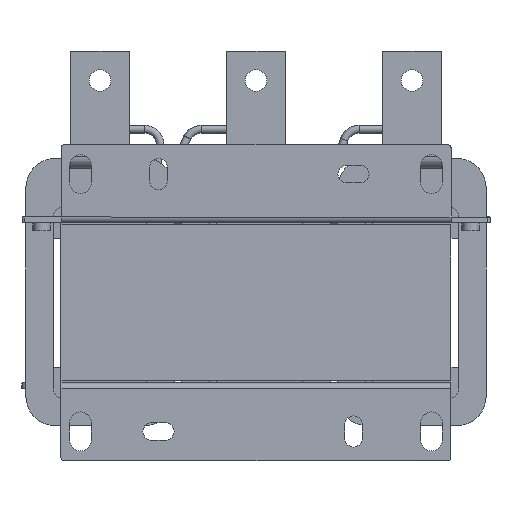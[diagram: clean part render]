
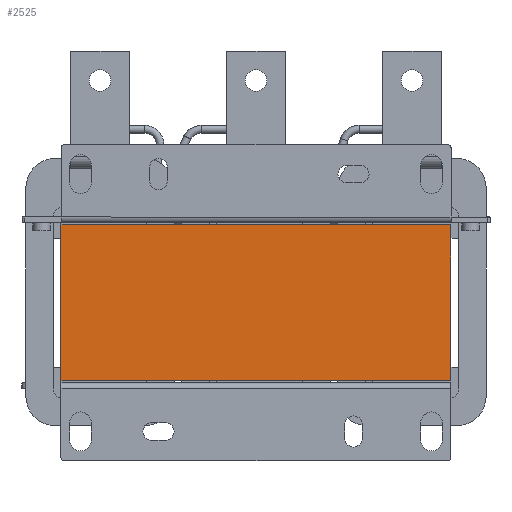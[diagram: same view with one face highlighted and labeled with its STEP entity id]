
A CAD part, front view. The second image highlights one B-rep face of the part: STEP entity #2525.
In plain terms, the highlighted planar face has unit normal (0, -1, 0).
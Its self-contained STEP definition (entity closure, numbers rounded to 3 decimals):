
#2525=ADVANCED_FACE('',(#8424),#8426,.F.);
#8424=FACE_BOUND('',#8425,.T.);
#8425=EDGE_LOOP('',(#16468,#16469,#16470,#16471));
#8426=PLANE('',#8427);
#8427=AXIS2_PLACEMENT_3D('',#8428,#8429,#8430);
#8428=CARTESIAN_POINT('',(-100.,-106.,80.));
#8429=DIRECTION('',(0.,1.,0.));
#8430=DIRECTION('',(-1.,0.,0.));
#16468=ORIENTED_EDGE('',*,*,#19485,.T.);
#16469=ORIENTED_EDGE('',*,*,#19497,.F.);
#16470=ORIENTED_EDGE('',*,*,#19475,.F.);
#16471=ORIENTED_EDGE('',*,*,#19499,.T.);
#19475=EDGE_CURVE('',#21015,#21010,#21017,.T.);
#19485=EDGE_CURVE('',#21037,#21034,#21038,.T.);
#19497=EDGE_CURVE('',#21010,#21034,#21059,.T.);
#19499=EDGE_CURVE('',#21015,#21037,#21061,.T.);
#21010=VERTEX_POINT('',#23633);
#21015=VERTEX_POINT('',#23642);
#21017=LINE('',#23646,#23647);
#21034=VERTEX_POINT('',#23681);
#21037=VERTEX_POINT('',#23686);
#21038=LINE('',#23687,#23688);
#21059=LINE('',#23732,#23733);
#21061=LINE('',#23738,#23739);
#23633=CARTESIAN_POINT('',(100.,-106.,80.));
#23642=CARTESIAN_POINT('',(-100.,-106.,80.));
#23646=CARTESIAN_POINT('',(-100.,-106.,80.));
#23647=VECTOR('',#23648,1.);
#23648=DIRECTION('',(1.,0.,0.));
#23681=CARTESIAN_POINT('',(100.,-106.,0.));
#23686=CARTESIAN_POINT('',(-100.,-106.,0.));
#23687=CARTESIAN_POINT('',(-100.,-106.,0.));
#23688=VECTOR('',#23689,1.);
#23689=DIRECTION('',(1.,0.,0.));
#23732=CARTESIAN_POINT('',(100.,-106.,80.));
#23733=VECTOR('',#23734,1.);
#23734=DIRECTION('',(0.,0.,-1.));
#23738=CARTESIAN_POINT('',(-100.,-106.,80.));
#23739=VECTOR('',#23740,1.);
#23740=DIRECTION('',(0.,0.,-1.));
